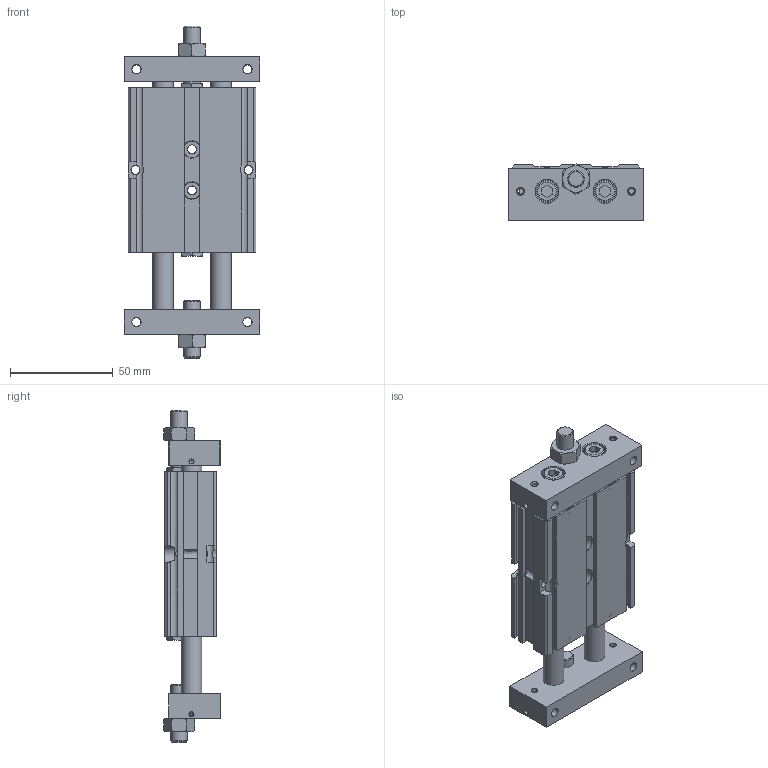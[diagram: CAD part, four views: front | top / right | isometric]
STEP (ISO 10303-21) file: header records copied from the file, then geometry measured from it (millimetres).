
FILE_DESCRIPTION((''),'2;1');
FILE_NAME('I:\3D電子目錄\氣缸\STU\STU\STU20\STU20x25.stp','2007-10-01T10:17:35',('Administrator'),(''),'Autodesk Inventor 11','Autodesk Inventor 11','');
FILE_SCHEMA(('AUTOMOTIVE_DESIGN { 1 0 10303 214 1 1 1 1 }'));
Length unit declared in the file: millimetre
Products named in the file (1): STU20
Bounding box: 66 x 27.51 x 161.5 mm (x, y, z)
Volume: 148776.9 mm3; surface area: 41829.3 mm2
Topology: 1 solids, 1 shells, 345 faces, 855 edges, 543 vertices
Faces by surface type: plane 166, cone 75, bspline 71, cylinder 29, torus 4
Full cylindrical faces by diameter (mm): 2.459 x2, 8 x6, 10 x6, 11 x4, 22 x2, 23.2 x2
Entity records: 10978 total; most frequent: CARTESIAN_POINT 3643, ORIENTED_EDGE 1470, DIRECTION 1388, EDGE_CURVE 735, EDGE_LOOP 520, VERTEX_POINT 519, AXIS2_PLACEMENT_3D 510, VECTOR 368
